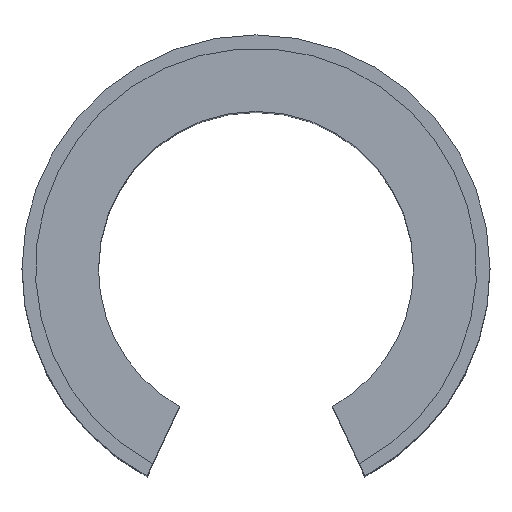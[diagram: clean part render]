
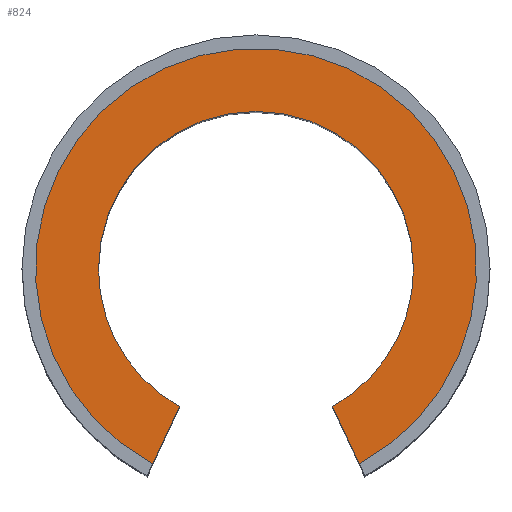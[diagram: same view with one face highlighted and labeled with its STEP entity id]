
A CAD part, top view. The second image highlights one B-rep face of the part: STEP entity #824.
In plain terms, the highlighted planar face has unit normal (0, 0, 1).
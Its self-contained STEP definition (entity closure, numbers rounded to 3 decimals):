
#51=CARTESIAN_POINT('',(17.5,0.,70.0));
#52=VERTEX_POINT('',#51);
#68=CARTESIAN_POINT('',(8.5,-15.297,70.0));
#69=VERTEX_POINT('',#68);
#76=CARTESIAN_POINT('',(0.0,0.0,70.0));
#77=DIRECTION('',(0.0,0.0,-1.0));
#78=DIRECTION('',(-1.0,0.0,0.0));
#79=AXIS2_PLACEMENT_3D('',#76,#77,#78);
#80=CIRCLE('',#79,17.5);
#81=EDGE_CURVE('',#52,#69,#80,.T.);
#91=CARTESIAN_POINT('',(-17.5,0.,70.0));
#92=VERTEX_POINT('',#91);
#101=CARTESIAN_POINT('',(-8.5,-15.297,70.0));
#102=VERTEX_POINT('',#101);
#103=CARTESIAN_POINT('',(0.0,0.0,70.0));
#104=DIRECTION('',(0.0,0.0,-1.0));
#105=DIRECTION('',(-1.0,0.0,0.0));
#106=AXIS2_PLACEMENT_3D('',#103,#104,#105);
#107=CIRCLE('',#106,17.5);
#108=EDGE_CURVE('',#102,#92,#107,.T.);
#469=CARTESIAN_POINT('',(-11.464,-21.653,70.0));
#470=VERTEX_POINT('',#469);
#539=CARTESIAN_POINT('',(-11.464,-21.653,70.0));
#540=DIRECTION('',(0.423,0.906,0.0));
#541=VECTOR('',#540,7.013);
#542=LINE('',#539,#541);
#543=EDGE_CURVE('',#470,#102,#542,.T.);
#553=CARTESIAN_POINT('',(11.464,-21.653,70.0));
#554=VERTEX_POINT('',#553);
#561=CARTESIAN_POINT('',(8.5,-15.297,70.0));
#562=DIRECTION('',(0.423,-0.906,0.0));
#563=VECTOR('',#562,7.013);
#564=LINE('',#561,#563);
#565=EDGE_CURVE('',#69,#554,#564,.T.);
#799=CARTESIAN_POINT('',(0.0,0.0,70.0));
#800=DIRECTION('',(0.0,0.0,-1.0));
#801=DIRECTION('',(-1.0,0.0,0.0));
#802=AXIS2_PLACEMENT_3D('',#799,#800,#801);
#803=PLANE('',#802);
#804=ORIENTED_EDGE('',*,*,#565,.T.);
#805=CARTESIAN_POINT('',(0.0,0.0,70.0));
#806=DIRECTION('',(0.0,0.0,-1.0));
#807=DIRECTION('',(1.0,0.0,0.0));
#808=AXIS2_PLACEMENT_3D('',#805,#806,#807);
#809=CIRCLE('',#808,24.5);
#810=EDGE_CURVE('',#470,#554,#809,.T.);
#811=ORIENTED_EDGE('',*,*,#810,.F.);
#812=ORIENTED_EDGE('',*,*,#543,.T.);
#813=ORIENTED_EDGE('',*,*,#108,.T.);
#814=CARTESIAN_POINT('',(0.0,0.0,70.0));
#815=DIRECTION('',(0.0,0.0,-1.0));
#816=DIRECTION('',(-1.0,0.0,0.0));
#817=AXIS2_PLACEMENT_3D('',#814,#815,#816);
#818=CIRCLE('',#817,17.5);
#819=EDGE_CURVE('',#92,#52,#818,.T.);
#820=ORIENTED_EDGE('',*,*,#819,.T.);
#821=ORIENTED_EDGE('',*,*,#81,.T.);
#822=EDGE_LOOP('',(#804,#811,#812,#813,#820,#821));
#823=FACE_OUTER_BOUND('',#822,.T.);
#824=ADVANCED_FACE('',(#823),#803,.F.);
